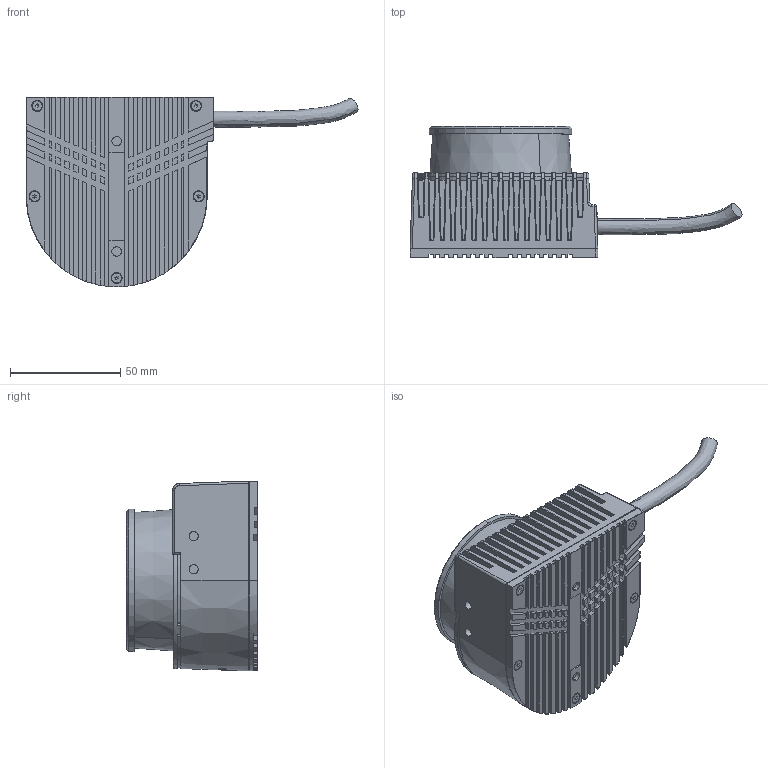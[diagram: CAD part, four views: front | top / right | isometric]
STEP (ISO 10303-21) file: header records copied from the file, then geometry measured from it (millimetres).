
FILE_DESCRIPTION (( 'STEP AP203' ), '1' );
FILE_NAME ('蚾饜极-Mini-俋夤.STEP', '2019-11-18T10:49:22', ( '' ), ( '' ), 'SwSTEP 2.0', 'SolidWorks 2016', '' );
FILE_SCHEMA (( 'CONFIG_CONTROL_DESIGN' ));
Length unit declared in the file: millimetre
Products named in the file (33): hexagon socket countersunk head screws gb_GB_FASTENER_SCREWS_HSCHS M2.5X3-N; A20-LEDDGZ-2; hexagon socket countersunk head screws gb; A21-tgzyh; A0101-tgz-蛁呿階裔; 蚾饜极-Mini-俋夤; A16-lydz2; A05-jzg-cnc; A20-LEDDGZ; A19-xlmfq; A01-tgz-FIT; A04-jz; A08-xl
Assembly tree (21 placements, depth 2):
  A20-LEDDGZ-2
  hexagon socket countersunk head screws gb
  A21-tgzyh
  A0101-tgz-蛁呿階裔
  蚾饜极-Mini-俋夤
    A01-tgz-FIT
    A0101-tgz-蛁呿階裔
    A04-jz
    A16-lydz2
    A19-xlmfq
    A20-LEDDGZ
    A21-tgzyh
    A08-xl
    A20-LEDDGZ-2
    hexagon socket countersunk head screws gb_GB_FASTENER_SCREWS_HSCHS M2.5X3-N  x11
    A05-jzg-cnc
Bounding box: 150.46 x 59.5 x 86.08 mm (x, y, z)
Volume: 118946.8 mm3; surface area: 85593.7 mm2
Topology: 21 solids, 21 shells, 2159 faces, 5237 edges, 3033 vertices
Faces by surface type: plane 729, cylinder 591, cone 286, bspline 272, torus 207, sphere 74
Entity records: 64124 total; most frequent: CARTESIAN_POINT 19001, ORIENTED_EDGE 8970, DIRECTION 8712, EDGE_CURVE 4485, AXIS2_PLACEMENT_3D 3332, VERTEX_POINT 2703, EDGE_LOOP 2060, LINE 2048
